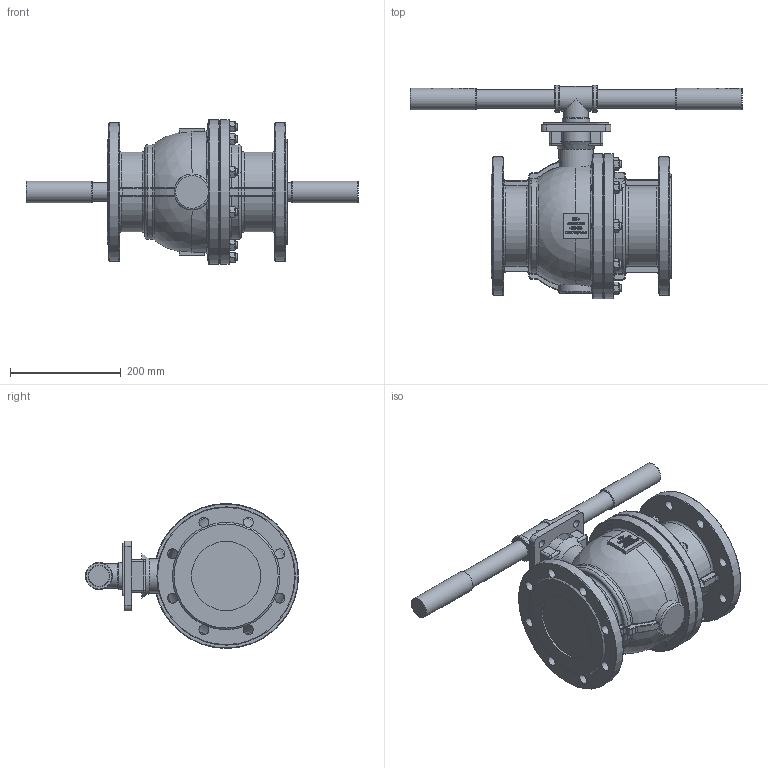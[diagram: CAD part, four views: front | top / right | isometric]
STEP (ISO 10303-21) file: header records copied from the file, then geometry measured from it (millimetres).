
FILE_DESCRIPTION((''),'2;1');
FILE_NAME('K:\Inventor\1 Artikel\12) Flanschen-Kugelhähne\12a) manuell\Econosto\460-GS, PN16, 7249\460-GS, DN125\460-GS, DN125, 3D\460-GS, DN125, PN16, HH, 3D.stp','2019-11-11T14:35:07',('claudia'),(''),'Autodesk Inventor 2013','Autodesk Inventor 2013','');
FILE_SCHEMA(('AUTOMOTIVE_DESIGN { 1 0 10303 214 1 1 1 1 }'));
Length unit declared in the file: millimetre
Products named in the file (1): Bauteil41
Bounding box: 600 x 385.35 x 262 mm (x, y, z)
Volume: 11264638.4 mm3; surface area: 639177.3 mm2
Topology: 1 solids, 1 shells, 1918 faces, 5211 edges, 3405 vertices
Faces by surface type: plane 864, bspline 694, cylinder 232, torus 79, cone 43, sphere 6
Full cylindrical faces by diameter (mm): 12 x20, 12.5 x10, 13 x1, 14 x4, 18 x16, 34 x2, 39 x2, 45 x2, 49 x3, 50 x1, 62 x1, 80 x1, 125 x2, 209.349 x1, 250 x2, 262 x2
Entity records: 123582 total; most frequent: CARTESIAN_POINT 80241, ORIENTED_EDGE 9844, DIRECTION 6263, EDGE_CURVE 4922, VERTEX_POINT 3296, VECTOR 2509, LINE 2509, EDGE_LOOP 2258
